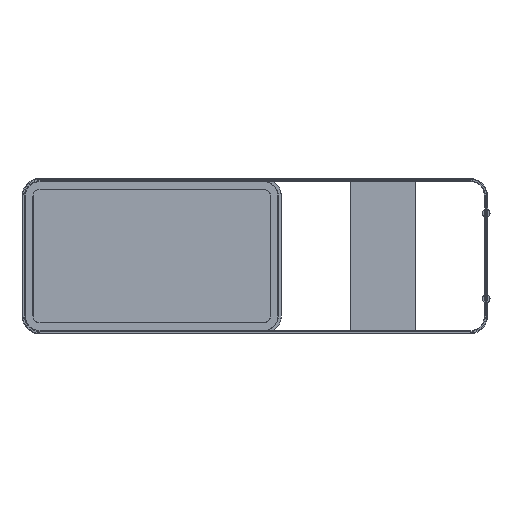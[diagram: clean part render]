
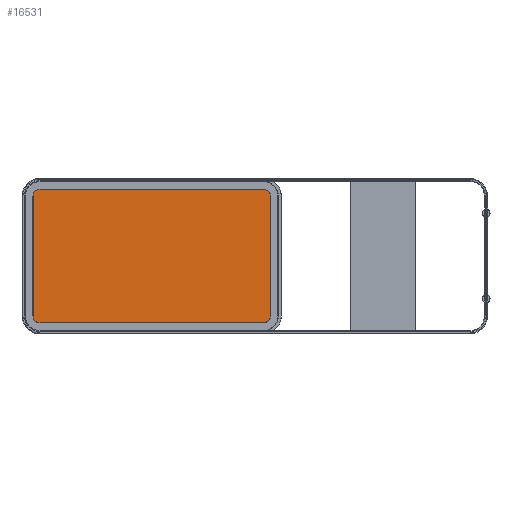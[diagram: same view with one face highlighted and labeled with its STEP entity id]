
A CAD part, front view. The second image highlights one B-rep face of the part: STEP entity #16531.
In plain terms, the highlighted planar face has unit normal (0, -1, -0.001).
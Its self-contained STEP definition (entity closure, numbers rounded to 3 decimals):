
#1211=PLANE('',#58448);
#4776=LINE('',#82675,#10810);
#4777=LINE('',#82679,#10811);
#4778=LINE('',#82683,#10812);
#4779=LINE('',#82687,#10813);
#10810=VECTOR('',#66113,1.);
#10811=VECTOR('',#66116,1.);
#10812=VECTOR('',#66119,1.);
#10813=VECTOR('',#66122,1.);
#16531=ADVANCED_FACE('',(#19767),#1211,.T.);
#19767=FACE_OUTER_BOUND('',#22760,.T.);
#22760=EDGE_LOOP('',(#29311,#29312,#29313,#29314,#29315,#29316,#29317,#29318));
#29311=ORIENTED_EDGE('',*,*,#48874,.F.);
#29312=ORIENTED_EDGE('',*,*,#48875,.F.);
#29313=ORIENTED_EDGE('',*,*,#48876,.F.);
#29314=ORIENTED_EDGE('',*,*,#48877,.F.);
#29315=ORIENTED_EDGE('',*,*,#48878,.F.);
#29316=ORIENTED_EDGE('',*,*,#48879,.F.);
#29317=ORIENTED_EDGE('',*,*,#48880,.F.);
#29318=ORIENTED_EDGE('',*,*,#48881,.F.);
#42787=VERTEX_POINT('',#82673);
#42788=VERTEX_POINT('',#82674);
#42789=VERTEX_POINT('',#82676);
#42790=VERTEX_POINT('',#82678);
#42791=VERTEX_POINT('',#82680);
#42792=VERTEX_POINT('',#82682);
#42793=VERTEX_POINT('',#82684);
#42794=VERTEX_POINT('',#82686);
#48874=EDGE_CURVE('',#42787,#42788,#55767,.T.);
#48875=EDGE_CURVE('',#42789,#42787,#4776,.T.);
#48876=EDGE_CURVE('',#42790,#42789,#55768,.T.);
#48877=EDGE_CURVE('',#42791,#42790,#4777,.T.);
#48878=EDGE_CURVE('',#42792,#42791,#55769,.T.);
#48879=EDGE_CURVE('',#42793,#42792,#4778,.T.);
#48880=EDGE_CURVE('',#42794,#42793,#55770,.T.);
#48881=EDGE_CURVE('',#42788,#42794,#4779,.T.);
#55767=CIRCLE('',#58444,27.5);
#55768=CIRCLE('',#58445,27.5);
#55769=CIRCLE('',#58446,27.5);
#55770=CIRCLE('',#58447,27.5);
#58444=AXIS2_PLACEMENT_3D('',#82672,#66111,#66112);
#58445=AXIS2_PLACEMENT_3D('',#82677,#66114,#66115);
#58446=AXIS2_PLACEMENT_3D('',#82681,#66117,#66118);
#58447=AXIS2_PLACEMENT_3D('',#82685,#66120,#66121);
#58448=AXIS2_PLACEMENT_3D('',#82688,#66123,#66124);
#66111=DIRECTION('',(0.,1.,0.001));
#66112=DIRECTION('',(0.,0.001,-1.));
#66113=DIRECTION('',(0.,0.001,-1.));
#66114=DIRECTION('',(0.,1.,0.001));
#66115=DIRECTION('',(1.,0.,0.));
#66116=DIRECTION('',(1.,0.,0.));
#66117=DIRECTION('',(0.,1.,0.001));
#66118=DIRECTION('',(0.,-0.001,1.));
#66119=DIRECTION('',(0.,-0.001,1.));
#66120=DIRECTION('',(0.,1.,0.001));
#66121=DIRECTION('',(-1.,0.,0.));
#66122=DIRECTION('',(-1.,0.,0.));
#66123=DIRECTION('',(0.,-1.,-0.001));
#66124=DIRECTION('',(-1.,0.,0.));
#82672=CARTESIAN_POINT('',(430.,1.182,-230.011));
#82673=CARTESIAN_POINT('',(457.5,1.182,-230.011));
#82674=CARTESIAN_POINT('',(430.,1.205,-257.511));
#82675=CARTESIAN_POINT('',(457.5,1.084,-115.011));
#82676=CARTESIAN_POINT('',(457.5,0.791,229.989));
#82677=CARTESIAN_POINT('',(430.,0.791,229.989));
#82678=CARTESIAN_POINT('',(430.,0.768,257.489));
#82679=CARTESIAN_POINT('',(215.,0.768,257.489));
#82680=CARTESIAN_POINT('',(-430.,0.768,257.489));
#82681=CARTESIAN_POINT('',(-430.,0.791,229.989));
#82682=CARTESIAN_POINT('',(-457.5,0.791,229.989));
#82683=CARTESIAN_POINT('',(-457.5,0.889,114.989));
#82684=CARTESIAN_POINT('',(-457.5,1.182,-230.011));
#82685=CARTESIAN_POINT('',(-430.,1.182,-230.011));
#82686=CARTESIAN_POINT('',(-430.,1.205,-257.511));
#82687=CARTESIAN_POINT('',(-215.,1.205,-257.511));
#82688=CARTESIAN_POINT('',(0.,0.986,-0.011));
